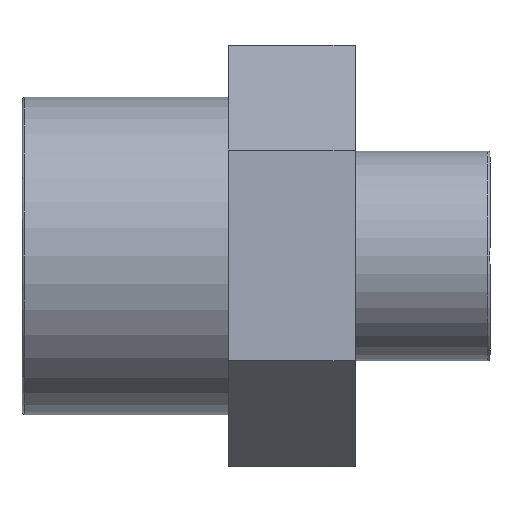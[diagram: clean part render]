
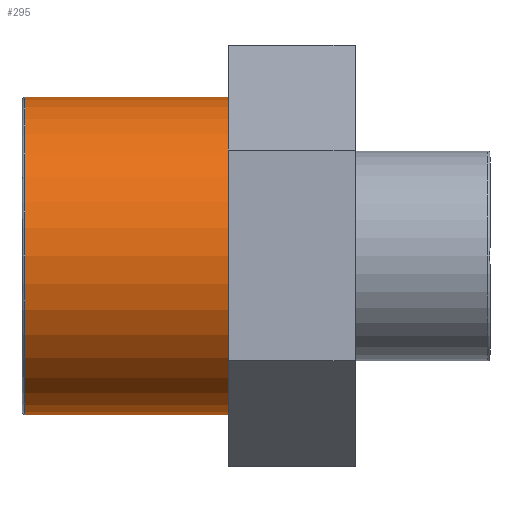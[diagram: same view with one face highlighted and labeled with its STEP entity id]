
A CAD part, front view. The second image highlights one B-rep face of the part: STEP entity #295.
In plain terms, the highlighted cylindrical face has radius 20 mm (diameter 40 mm), a full revolution.
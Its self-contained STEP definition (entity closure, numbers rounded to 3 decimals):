
#18=CYLINDRICAL_SURFACE('',#329,20.);
#29=FACE_BOUND('',#99,.T.);
#45=CIRCLE('',#328,20.);
#46=CIRCLE('',#330,20.);
#68=FACE_OUTER_BOUND('',#98,.T.);
#98=EDGE_LOOP('',(#246));
#99=EDGE_LOOP('',(#247));
#168=VERTEX_POINT('',#494);
#169=VERTEX_POINT('',#497);
#200=EDGE_CURVE('',#168,#168,#45,.T.);
#201=EDGE_CURVE('',#169,#169,#46,.T.);
#246=ORIENTED_EDGE('',*,*,#201,.T.);
#247=ORIENTED_EDGE('',*,*,#200,.F.);
#295=ADVANCED_FACE('',(#68,#29),#18,.T.);
#328=AXIS2_PLACEMENT_3D('',#495,#408,#409);
#329=AXIS2_PLACEMENT_3D('',#496,#410,#411);
#330=AXIS2_PLACEMENT_3D('',#498,#412,#413);
#408=DIRECTION('center_axis',(-1.,0.,0.));
#409=DIRECTION('ref_axis',(0.,1.,0.));
#410=DIRECTION('center_axis',(-1.,0.,0.));
#411=DIRECTION('ref_axis',(0.,-1.,0.));
#412=DIRECTION('center_axis',(-1.,0.,0.));
#413=DIRECTION('ref_axis',(0.,0.,1.));
#494=CARTESIAN_POINT('',(-29.18,-20.,0.));
#495=CARTESIAN_POINT('Origin',(-29.18,0.,0.));
#496=CARTESIAN_POINT('Origin',(-16.5,0.,0.));
#497=CARTESIAN_POINT('',(-3.5,-20.,0.));
#498=CARTESIAN_POINT('Origin',(-3.5,0.,0.));
